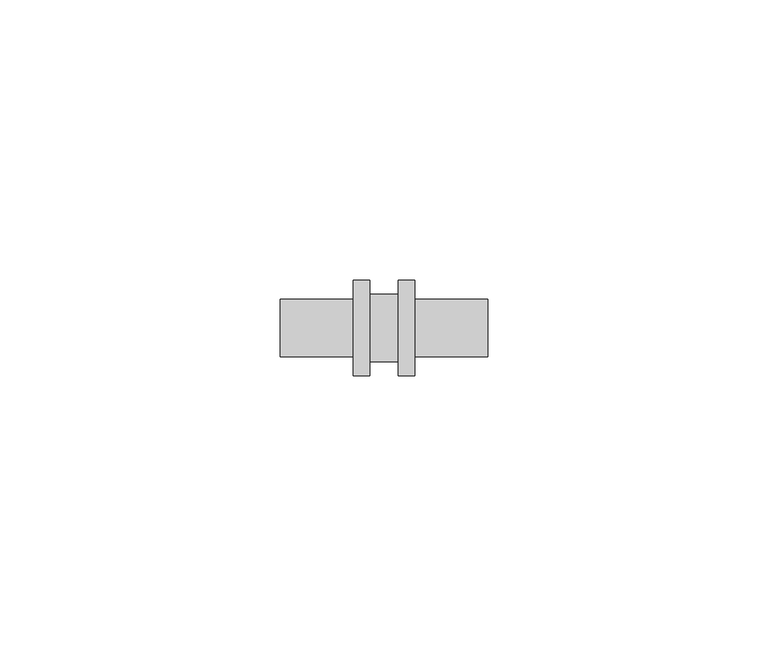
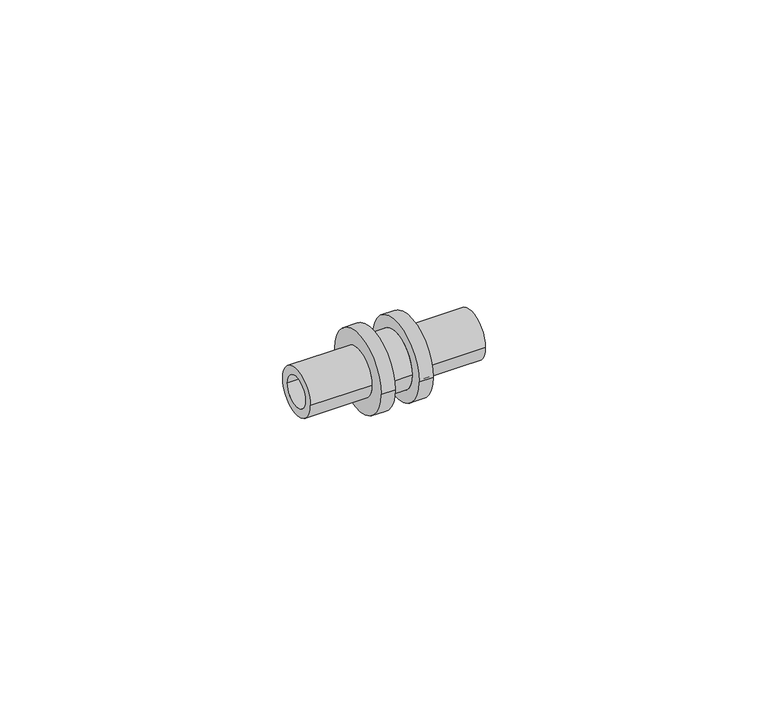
"""IFC4 building model written with IfcOpenShell, lengths in millimetres: pipe fitting geometry, RAUTITAN_Union_LX : RTI LX U NL."""

from ifc_helpers import new_model, si_unit, frame, origin, place, context, project, spatial, polyline, circle_curve, source, transform, mapped, element, save
from ifc_brep_helpers import plane_surface, cylinder_surface, revolved_surface, advanced_brep


def pipe_fitting_b87c9c57(model_context):
    return source(origin(), model_context, "Body", "AdvancedBrep", [
        advanced_brep(
        [(-18.5, 3.3, 0.0), (-18.5, -3.3, 0.0), (18.5, -3.3, 0.0), (18.5, 3.3, 0.0), (-5.5, 5.1, 0.0), (-5.5, -5.1, 0.0), (-18.5, -5.1, 0.0), (-18.5, 5.1, 0.0), (-2.5, 8.5, 0.0), (-2.5, -8.5, 0.0), (-5.5, -8.5, 0.0), (-5.5, 8.5, 0.0), (2.5, 6.0, 0.0), (2.5, -6.0, 0.0), (-2.5, -6.0, 0.0), (-2.5, 6.0, 0.0), (5.5, 8.5, 0.0), (5.5, -8.5, 0.0), (2.5, -8.5, 0.0), (2.5, 8.5, 0.0), (18.5, 5.1, 0.0), (18.5, -5.1, 0.0), (5.5, -5.1, 0.0), (5.5, 5.1, 0.0)],
        [
            (0, 1, circle_curve(frame((-18.5, 0.0, 0.0), z_axis=(-1.0, 0.0, 0.0), x_axis=(0.0, -1.0, 0.0)), 3.3)),
            (1, 2),
            (2, 3, circle_curve(frame((18.5, 0.0, 0.0), z_axis=(1.0, 0.0, 0.0), x_axis=(0.0, -1.0, 0.0)), 3.3)),
            (3, 0),
            (4, 5, circle_curve(frame((-5.5, 0.0, 0.0), z_axis=(-1.0, 0.0, 0.0), x_axis=(0.0, -1.0, 0.0)), 5.1)),
            (5, 6),
            (6, 7, circle_curve(frame((-18.5, 0.0, 0.0), z_axis=(1.0, 0.0, 0.0), x_axis=(0.0, -1.0, 0.0)), 5.1)),
            (7, 4),
            (8, 9, circle_curve(frame((-2.5, 0.0, 0.0), z_axis=(-1.0, 0.0, 0.0), x_axis=(0.0, -1.0, 0.0)), 8.5)),
            (9, 10),
            (10, 11, circle_curve(frame((-5.5, 0.0, 0.0), z_axis=(1.0, 0.0, 0.0), x_axis=(0.0, -1.0, 0.0)), 8.5)),
            (11, 8),
            (12, 13, circle_curve(frame((2.5, 0.0, 0.0), z_axis=(-1.0, 0.0, 0.0), x_axis=(0.0, -1.0, 0.0)), 6.0)),
            (13, 14),
            (14, 15, circle_curve(frame((-2.5, 0.0, 0.0), z_axis=(1.0, 0.0, 0.0), x_axis=(0.0, -1.0, 0.0)), 6.0)),
            (15, 12),
            (16, 17, circle_curve(frame((5.5, 0.0, 0.0), z_axis=(-1.0, 0.0, 0.0), x_axis=(0.0, -1.0, 0.0)), 8.5)),
            (17, 18),
            (18, 19, circle_curve(frame((2.5, 0.0, 0.0), z_axis=(1.0, 0.0, 0.0), x_axis=(0.0, -1.0, 0.0)), 8.5)),
            (19, 16),
            (20, 21, circle_curve(frame((18.5, 0.0, 0.0), z_axis=(-1.0, 0.0, 0.0), x_axis=(0.0, -1.0, 0.0)), 5.1)),
            (21, 22),
            (22, 23, circle_curve(frame((5.5, 0.0, 0.0), z_axis=(1.0, 0.0, 0.0), x_axis=(0.0, -1.0, 0.0)), 5.1)),
            (23, 20),
            (1, 0, circle_curve(frame((-18.5, 0.0, 0.0), z_axis=(-1.0, 0.0, 0.0), x_axis=(0.0, 1.0, 0.0)), 3.3)),
            (3, 2, circle_curve(frame((18.5, 0.0, 0.0), z_axis=(1.0, 0.0, 0.0), x_axis=(0.0, 1.0, 0.0)), 3.3)),
            (6, 7, circle_curve(frame((-18.5, 0.0, 0.0), z_axis=(-1.0, 0.0, 0.0), x_axis=(0.0, 1.0, 0.0)), 5.1)),
            (5, 4, circle_curve(frame((-5.5, 0.0, 0.0), z_axis=(-1.0, 0.0, 0.0), x_axis=(0.0, 1.0, 0.0)), 5.1)),
            (10, 11, circle_curve(frame((-5.5, 0.0, 0.0), z_axis=(-1.0, 0.0, 0.0), x_axis=(0.0, 1.0, 0.0)), 8.5)),
            (9, 8, circle_curve(frame((-2.5, 0.0, 0.0), z_axis=(-1.0, 0.0, 0.0), x_axis=(0.0, 1.0, 0.0)), 8.5)),
            (14, 15, circle_curve(frame((-2.5, 0.0, 0.0), z_axis=(-1.0, 0.0, 0.0), x_axis=(0.0, 1.0, 0.0)), 6.0)),
            (13, 12, circle_curve(frame((2.5, 0.0, 0.0), z_axis=(-1.0, 0.0, 0.0), x_axis=(0.0, 1.0, 0.0)), 6.0)),
            (18, 19, circle_curve(frame((2.5, 0.0, 0.0), z_axis=(-1.0, 0.0, 0.0), x_axis=(0.0, 1.0, 0.0)), 8.5)),
            (17, 16, circle_curve(frame((5.5, 0.0, 0.0), z_axis=(-1.0, 0.0, 0.0), x_axis=(0.0, 1.0, 0.0)), 8.5)),
            (22, 23, circle_curve(frame((5.5, 0.0, 0.0), z_axis=(-1.0, 0.0, 0.0), x_axis=(0.0, 1.0, 0.0)), 5.1)),
            (21, 20, circle_curve(frame((18.5, 0.0, 0.0), z_axis=(-1.0, 0.0, 0.0), x_axis=(0.0, 1.0, 0.0)), 5.1)),
        ],
        [
            revolved_surface(polyline([(18.5, -3.3, 0.0), (-18.5, -3.3, 0.0)]), (0.0, 0.0, 0.0), (1.0, 0.0, 0.0)),
            cylinder_surface(frame((0.0, 0.0, 0.0), z_axis=(1.0, 0.0, 0.0), x_axis=(0.0, -1.0, 0.0)), 5.1),
            cylinder_surface(frame((0.0, 0.0, 0.0), z_axis=(1.0, 0.0, 0.0), x_axis=(0.0, -1.0, 0.0)), 8.5),
            cylinder_surface(frame((0.0, 0.0, 0.0), z_axis=(1.0, 0.0, 0.0), x_axis=(0.0, -1.0, 0.0)), 6.0),
            revolved_surface(polyline([(18.5, 3.3, 0.0), (-18.5, 3.3, 0.0)]), (0.0, 0.0, 0.0), (1.0, 0.0, 0.0)),
            plane_surface(frame((-18.5, 0.0, 0.0), z_axis=(-1.0, 0.0, 0.0), x_axis=(0.0, 1.0, 0.0))),
            cylinder_surface(frame((0.0, 0.0, 0.0), z_axis=(1.0, 0.0, 0.0), x_axis=(0.0, 1.0, 0.0)), 5.1),
            plane_surface(frame((-5.5, 0.0, 0.0), z_axis=(-1.0, 0.0, 0.0), x_axis=(0.0, 1.0, 0.0))),
            cylinder_surface(frame((0.0, 0.0, 0.0), z_axis=(1.0, 0.0, 0.0), x_axis=(0.0, 1.0, 0.0)), 8.5),
            plane_surface(frame((-2.5, 0.0, 0.0), z_axis=(1.0, 0.0, 0.0), x_axis=(0.0, 1.0, 0.0))),
            cylinder_surface(frame((0.0, 0.0, 0.0), z_axis=(1.0, 0.0, 0.0), x_axis=(0.0, 1.0, 0.0)), 6.0),
            plane_surface(frame((2.5, 0.0, 0.0), z_axis=(-1.0, 0.0, 0.0), x_axis=(0.0, 1.0, 0.0))),
            plane_surface(frame((5.5, 0.0, 0.0), z_axis=(1.0, 0.0, 0.0), x_axis=(0.0, 1.0, 0.0))),
            plane_surface(frame((18.5, 0.0, 0.0), z_axis=(1.0, 0.0, 0.0), x_axis=(0.0, 1.0, 0.0))),
        ],
        [
            (0, [[1, 2, 3, 4]]),
            (1, [[5, 6, 7, 8]]),
            (2, [[9, 10, 11, 12]]),
            (3, [[13, 14, 15, 16]]),
            (2, [[17, 18, 19, 20]]),
            (1, [[21, 22, 23, 24]]),
            (4, [[25, -4, 26, -2]]),
            (5, [[27, -7], [-25, -1]]),
            (6, [[28, -8, -27, -6]]),
            (7, [[29, -11], [-28, -5]]),
            (8, [[30, -12, -29, -10]]),
            (9, [[-30, -9], [31, -15]]),
            (10, [[32, -16, -31, -14]]),
            (11, [[33, -19], [-32, -13]]),
            (8, [[34, -20, -33, -18]]),
            (12, [[-34, -17], [35, -23]]),
            (6, [[36, -24, -35, -22]]),
            (13, [[-36, -21], [-26, -3]]),
        ],
    ),
    ])


if __name__ == "__main__":
    model = new_model("IFC4")
    model_context = context("Model", 3, world=origin())
    ifc_project = project(units=[si_unit("LENGTHUNIT", "METRE", prefix="MILLI")], contexts=[model_context])
    site = spatial("IfcSite", under=ifc_project)
    building = spatial("IfcBuilding", under=site)
    placement = place(None, origin())
    pipe_fitting_shape = pipe_fitting_b87c9c57(model_context)
    element("IfcPipeFitting", 1, ObjectType="RAUTITAN_Union_LX : RTI LX U NL", at=placement, inside=building, context=model_context, shape_type="MappedRepresentation", body=[
        mapped(pipe_fitting_shape, transform((0.0, 0.0, 0.0), x_axis=(1.0, 0.0, 0.0), y_axis=(0.0, 1.0, 0.0), z_axis=(0.0, 0.0, 1.0))),
    ])
    save(model, "model.ifc")
